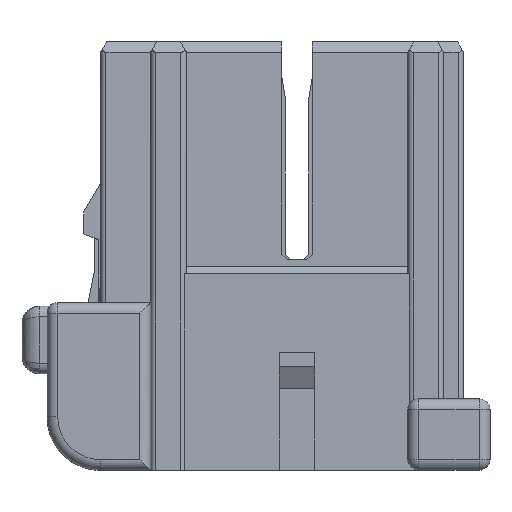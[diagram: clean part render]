
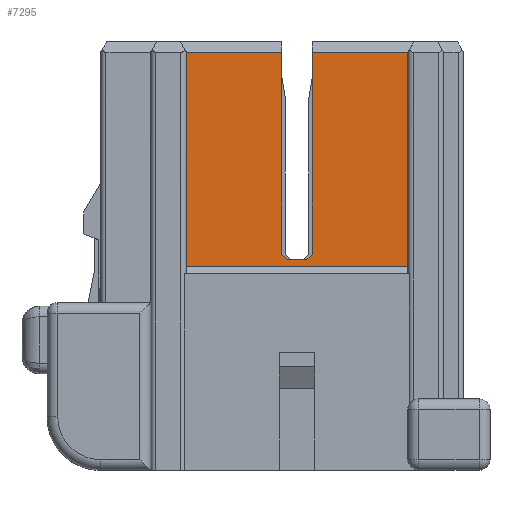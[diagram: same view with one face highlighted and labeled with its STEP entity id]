
A CAD part, left-side view. The second image highlights one B-rep face of the part: STEP entity #7295.
In plain terms, the highlighted planar face has unit normal (-1, 0, 0).
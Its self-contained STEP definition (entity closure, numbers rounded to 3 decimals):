
#1607=DIRECTION('',(0.,-1.,0.));
#1608=VECTOR('',#1607,2.675);
#1609=CARTESIAN_POINT('',(-3.15,3.1,-0.3));
#1610=LINE('',#1609,#1608);
#1611=DIRECTION('',(0.,0.,-1.));
#1612=VECTOR('',#1611,5.65);
#1613=CARTESIAN_POINT('',(-3.15,0.425,-0.3));
#1614=LINE('',#1613,#1612);
#1615=DIRECTION('',(0.,0.707,0.707));
#1616=VECTOR('',#1615,0.212);
#1617=CARTESIAN_POINT('',(-3.15,0.275,-6.1));
#1618=LINE('',#1617,#1616);
#1619=DIRECTION('',(0.,1.,0.));
#1620=VECTOR('',#1619,0.55);
#1621=CARTESIAN_POINT('',(-3.15,-0.275,-6.1));
#1622=LINE('',#1621,#1620);
#1623=DIRECTION('',(0.,0.707,-0.707));
#1624=VECTOR('',#1623,0.212);
#1625=CARTESIAN_POINT('',(-3.15,-0.425,-5.95));
#1626=LINE('',#1625,#1624);
#1627=DIRECTION('',(0.,0.,-1.));
#1628=VECTOR('',#1627,5.65);
#1629=CARTESIAN_POINT('',(-3.15,-0.425,-0.3));
#1630=LINE('',#1629,#1628);
#1631=DIRECTION('',(0.,-1.,0.));
#1632=VECTOR('',#1631,2.675);
#1633=CARTESIAN_POINT('',(-3.15,-0.425,-0.3));
#1634=LINE('',#1633,#1632);
#1635=DIRECTION('',(0.,0.,1.));
#1636=VECTOR('',#1635,6.);
#1637=CARTESIAN_POINT('',(-3.15,-3.1,-6.3));
#1638=LINE('',#1637,#1636);
#1639=DIRECTION('',(0.,-1.,0.));
#1640=VECTOR('',#1639,6.2);
#1641=CARTESIAN_POINT('',(-3.15,3.1,-6.3));
#1642=LINE('',#1641,#1640);
#1643=DIRECTION('',(0.,0.,1.));
#1644=VECTOR('',#1643,6.);
#1645=CARTESIAN_POINT('',(-3.15,3.1,-6.3));
#1646=LINE('',#1645,#1644);
#4556=CARTESIAN_POINT('',(-3.15,3.1,-0.3));
#4557=CARTESIAN_POINT('',(-3.15,0.425,-0.3));
#4558=VERTEX_POINT('',#4556);
#4559=VERTEX_POINT('',#4557);
#4882=CARTESIAN_POINT('',(-3.15,-0.425,-5.95));
#4883=CARTESIAN_POINT('',(-3.15,-0.275,-6.1));
#4884=VERTEX_POINT('',#4882);
#4885=VERTEX_POINT('',#4883);
#4886=CARTESIAN_POINT('',(-3.15,0.275,-6.1));
#4887=VERTEX_POINT('',#4886);
#4888=CARTESIAN_POINT('',(-3.15,0.425,-5.95));
#4889=VERTEX_POINT('',#4888);
#4890=CARTESIAN_POINT('',(-3.15,-0.425,-0.3));
#4891=CARTESIAN_POINT('',(-3.15,-3.1,-0.3));
#4892=VERTEX_POINT('',#4890);
#4893=VERTEX_POINT('',#4891);
#4899=CARTESIAN_POINT('',(-3.15,3.1,-6.3));
#4901=VERTEX_POINT('',#4899);
#4904=CARTESIAN_POINT('',(-3.15,-3.1,-6.3));
#4905=VERTEX_POINT('',#4904);
#7269=CARTESIAN_POINT('',(-3.15,4.1,-12.));
#7270=DIRECTION('',(-1.,0.,0.));
#7271=DIRECTION('',(0.,-1.,0.));
#7272=AXIS2_PLACEMENT_3D('',#7269,#7270,#7271);
#7273=PLANE('',#7272);
#7274=ORIENTED_EDGE('',*,*,#7260,.T.);
#7276=ORIENTED_EDGE('',*,*,#7275,.T.);
#7278=ORIENTED_EDGE('',*,*,#7277,.F.);
#7280=ORIENTED_EDGE('',*,*,#7279,.F.);
#7282=ORIENTED_EDGE('',*,*,#7281,.F.);
#7284=ORIENTED_EDGE('',*,*,#7283,.F.);
#7286=ORIENTED_EDGE('',*,*,#7285,.T.);
#7288=ORIENTED_EDGE('',*,*,#7287,.F.);
#7290=ORIENTED_EDGE('',*,*,#7289,.F.);
#7292=ORIENTED_EDGE('',*,*,#7291,.T.);
#7293=EDGE_LOOP('',(#7274,#7276,#7278,#7280,#7282,#7284,#7286,#7288,#7290,
#7292));
#7294=FACE_OUTER_BOUND('',#7293,.F.);
#7260=EDGE_CURVE('',#4558,#4559,#1610,.T.);
#7275=EDGE_CURVE('',#4559,#4889,#1614,.T.);
#7277=EDGE_CURVE('',#4887,#4889,#1618,.T.);
#7279=EDGE_CURVE('',#4885,#4887,#1622,.T.);
#7281=EDGE_CURVE('',#4884,#4885,#1626,.T.);
#7283=EDGE_CURVE('',#4892,#4884,#1630,.T.);
#7285=EDGE_CURVE('',#4892,#4893,#1634,.T.);
#7287=EDGE_CURVE('',#4905,#4893,#1638,.T.);
#7289=EDGE_CURVE('',#4901,#4905,#1642,.T.);
#7291=EDGE_CURVE('',#4901,#4558,#1646,.T.);
#7295=ADVANCED_FACE('',(#7294),#7273,.T.);
